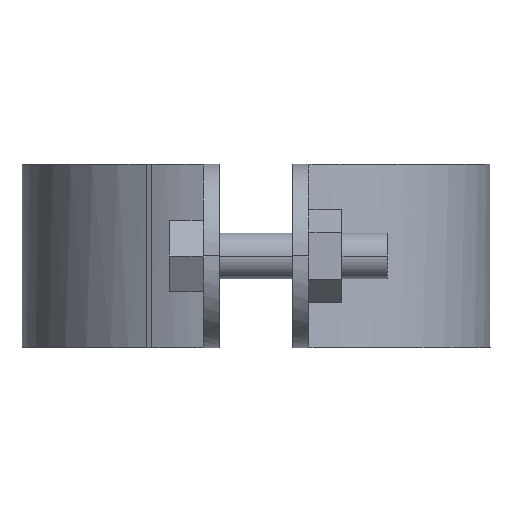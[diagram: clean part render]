
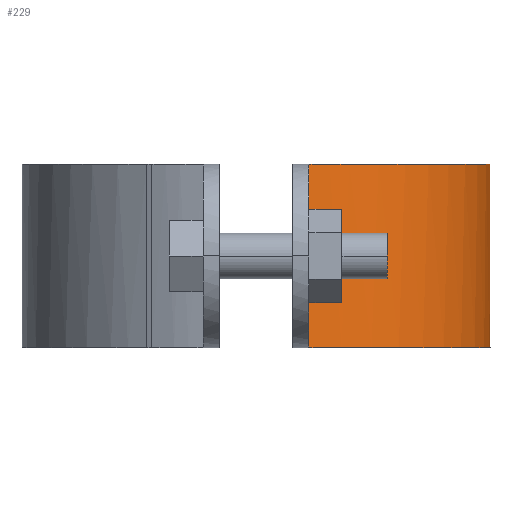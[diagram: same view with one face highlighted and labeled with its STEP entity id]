
A CAD part, left-side view. The second image highlights one B-rep face of the part: STEP entity #229.
In plain terms, the highlighted free-form (B-spline) face has degree [3, 1] with [4, 2] control points.
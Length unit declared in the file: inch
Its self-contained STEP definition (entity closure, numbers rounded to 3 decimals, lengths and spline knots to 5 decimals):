
#229=ADVANCED_FACE('',(#490),#491,.T.);
#490=FACE_OUTER_BOUND('',#898,.T.);
#491=B_SPLINE_SURFACE_WITH_KNOTS('',3,1,((#899,#900),(#901,#902),(#903,#904),(#905,#906)),.UNSPECIFIED.,.F.,.F.,.F.,(4,4),(2,2),(-1.0,-0.0),(0.0,1.25),.UNSPECIFIED.);
#898=EDGE_LOOP('',(#1497,#1498,#1499,#1500));
#899=CARTESIAN_POINT('',(0.54488,1.09888,0.0));
#900=CARTESIAN_POINT('',(0.54488,1.09888,1.25));
#901=CARTESIAN_POINT('',(0.74835,0.23852,0.0));
#902=CARTESIAN_POINT('',(0.74835,0.23852,1.25));
#903=CARTESIAN_POINT('',(1.61075,-0.29399,0.0));
#904=CARTESIAN_POINT('',(1.61075,-0.29399,1.25));
#905=CARTESIAN_POINT('',(2.47109,-0.09052,0.0));
#906=CARTESIAN_POINT('',(2.47109,-0.09052,1.25));
#1497=ORIENTED_EDGE('',*,*,#2189,.T.);
#1498=ORIENTED_EDGE('',*,*,#2190,.T.);
#1499=ORIENTED_EDGE('',*,*,#2092,.T.);
#1500=ORIENTED_EDGE('',*,*,#2114,.F.);
#2092=EDGE_CURVE('',#2433,#2430,#2434,.T.);
#2114=EDGE_CURVE('',#2473,#2430,#2475,.T.);
#2189=EDGE_CURVE('',#2473,#2597,#2598,.T.);
#2190=EDGE_CURVE('',#2597,#2433,#2599,.T.);
#2430=VERTEX_POINT('',#2926);
#2433=VERTEX_POINT('',#2930);
#2434=B_SPLINE_CURVE_WITH_KNOTS('',3,(#2931,#2932,#2933,#2934),.UNSPECIFIED.,.F.,.F.,(4,4),(0.0,1.0),.UNSPECIFIED.);
#2473=VERTEX_POINT('',#2991);
#2475=LINE('',#2994,#2995);
#2597=VERTEX_POINT('',#3202);
#2598=B_SPLINE_CURVE_WITH_KNOTS('',3,(#3203,#3204,#3205,#3206),.UNSPECIFIED.,.F.,.F.,(4,4),(-1.0,-0.0),.UNSPECIFIED.);
#2599=LINE('',#3207,#3208);
#2926=CARTESIAN_POINT('',(0.54488,1.09888,1.24989));
#2930=CARTESIAN_POINT('',(2.47109,-0.09052,1.24989));
#2931=CARTESIAN_POINT('',(2.47109,-0.09052,1.24989));
#2932=CARTESIAN_POINT('',(1.61075,-0.29399,1.24989));
#2933=CARTESIAN_POINT('',(0.74835,0.23852,1.24989));
#2934=CARTESIAN_POINT('',(0.54488,1.09888,1.24989));
#2991=CARTESIAN_POINT('',(0.54488,1.09888,0.00009));
#2994=CARTESIAN_POINT('',(0.54488,1.09888,0.0));
#2995=VECTOR('',#3681,1.0);
#3202=CARTESIAN_POINT('',(2.47109,-0.09052,0.00009));
#3203=CARTESIAN_POINT('',(0.54488,1.09888,0.00009));
#3204=CARTESIAN_POINT('',(0.74835,0.23852,0.00009));
#3205=CARTESIAN_POINT('',(1.61075,-0.29399,0.00009));
#3206=CARTESIAN_POINT('',(2.47109,-0.09052,0.00009));
#3207=CARTESIAN_POINT('',(2.47109,-0.09052,0.0));
#3208=VECTOR('',#3728,1.0);
#3681=DIRECTION('',(0.0,0.0,1.0));
#3728=DIRECTION('',(0.0,0.0,1.0));
